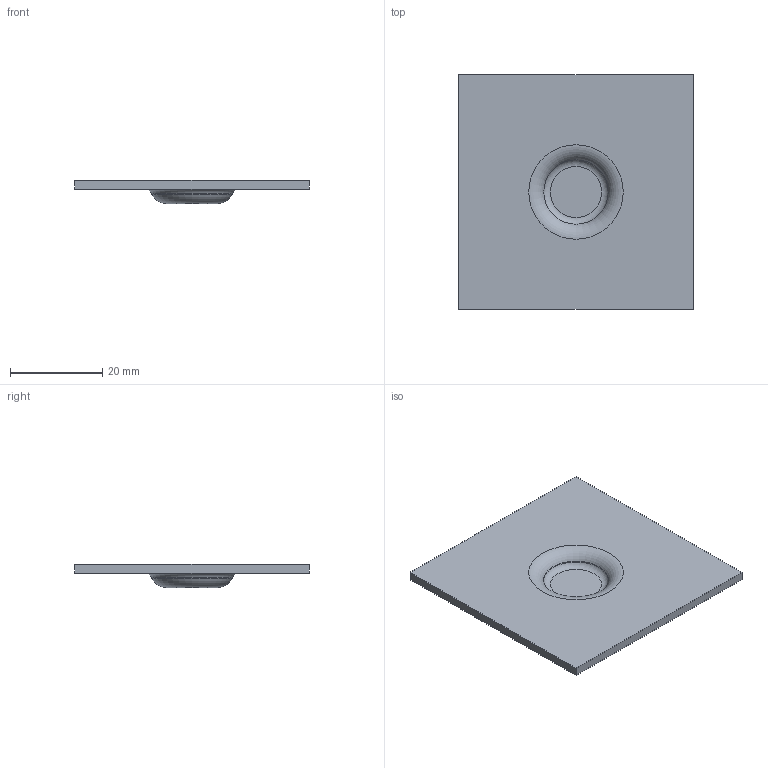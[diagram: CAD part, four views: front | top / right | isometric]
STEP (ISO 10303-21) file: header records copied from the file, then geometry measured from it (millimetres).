
FILE_DESCRIPTION((''),'1');
FILE_NAME('C:/Users/robertnolte/Desktop/WT#202-9243.stp','2012-03-29T18:34:53',(''),(''),'Spatial Interop R21 SP3','Kubotek KeyCreator 2011 V10.5.0 (24766)',' ');
FILE_SCHEMA(('CONFIG_CONTROL_DESIGN'));
Length unit declared in the file: inch
Products named in the file (1): 1
Bounding box: 50.8 x 50.8 x 5 mm (x, y, z)
Volume: 5035 mm3; surface area: 5673.2 mm2
Topology: 1 solids, 1 shells, 14 faces, 26 edges, 16 vertices
Faces by surface type: plane 8, torus 4, cone 2
Entity records: 360 total; most frequent: DIRECTION 58, CARTESIAN_POINT 51, ORIENTED_EDGE 40, AXIS2_PLACEMENT_3D 23, EDGE_LOOP 22, EDGE_CURVE 20, VERTEX_POINT 16, ADVANCED_FACE 14
